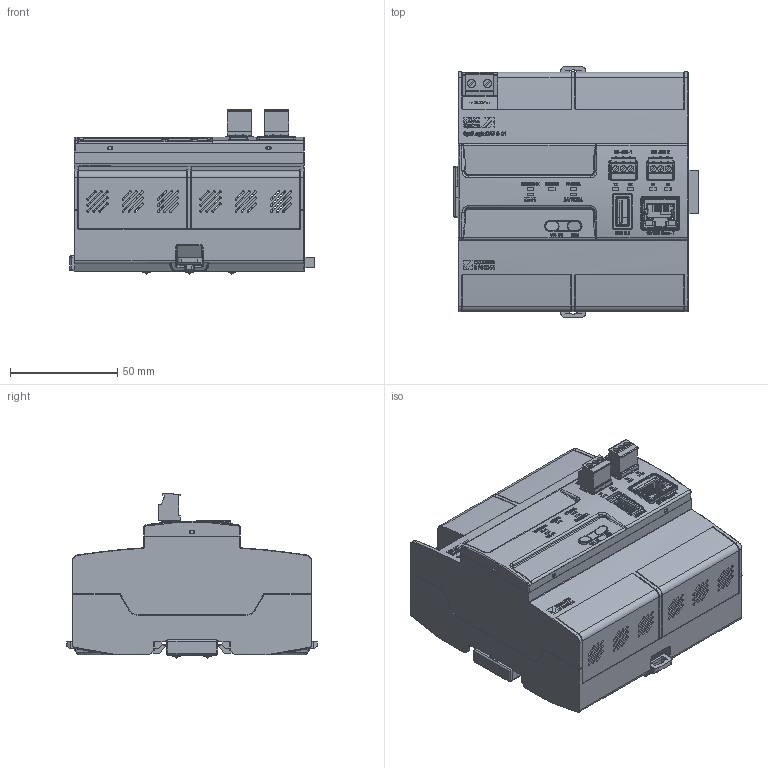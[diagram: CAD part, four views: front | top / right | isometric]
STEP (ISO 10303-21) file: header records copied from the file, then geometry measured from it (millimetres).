
FILE_DESCRIPTION (( 'STEP AP214' ), '1' );
FILE_NAME ('CPU-2-01.STEP', '2020-11-06T11:54:29', ( '' ), ( '' ), 'SwSTEP 2.0', 'SolidWorks 2018', '' );
FILE_SCHEMA (( 'AUTOMOTIVE_DESIGN' ));
Length unit declared in the file: millimetre
Products named in the file (1): CPU-2-01
Bounding box: 114.46 x 117.13 x 76.84 mm (x, y, z)
Surface area: 98535.8 mm2 (no closed solid volume)
Topology: 0 solids, 252 shells, 2258 faces, 13446 edges, 11221 vertices
Faces by surface type: plane 1062, cylinder 802, torus 161, bspline 160, cone 37, sphere 36
Full cylindrical faces by diameter (mm): 0.457 x1, 2.9 x6, 3.5 x3, 4 x5, 5.5 x4
Entity records: 175166 total; most frequent: CARTESIAN_POINT 56343, ORIENTED_EDGE 17172, DIRECTION 17015, EDGE_CURVE 13364, VERTEX_POINT 11205, VECTOR 6665, LINE 6665, AXIS2_PLACEMENT_3D 5175
